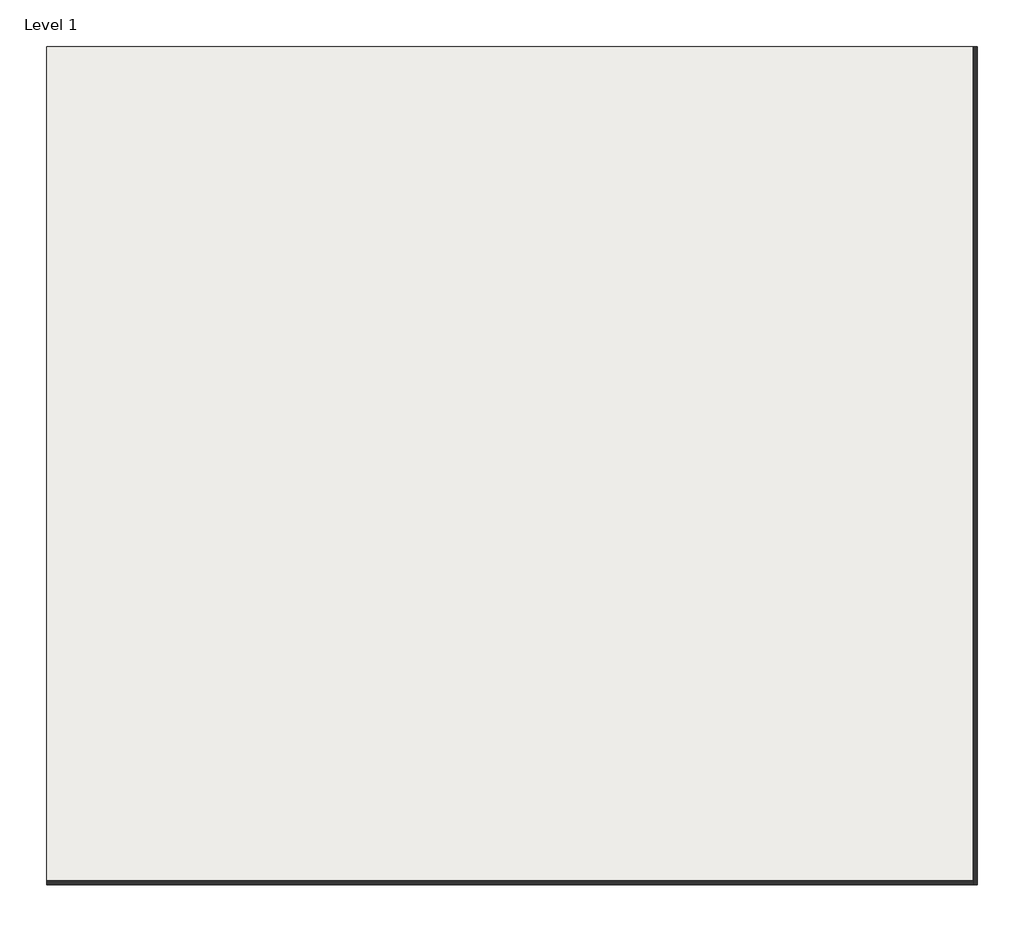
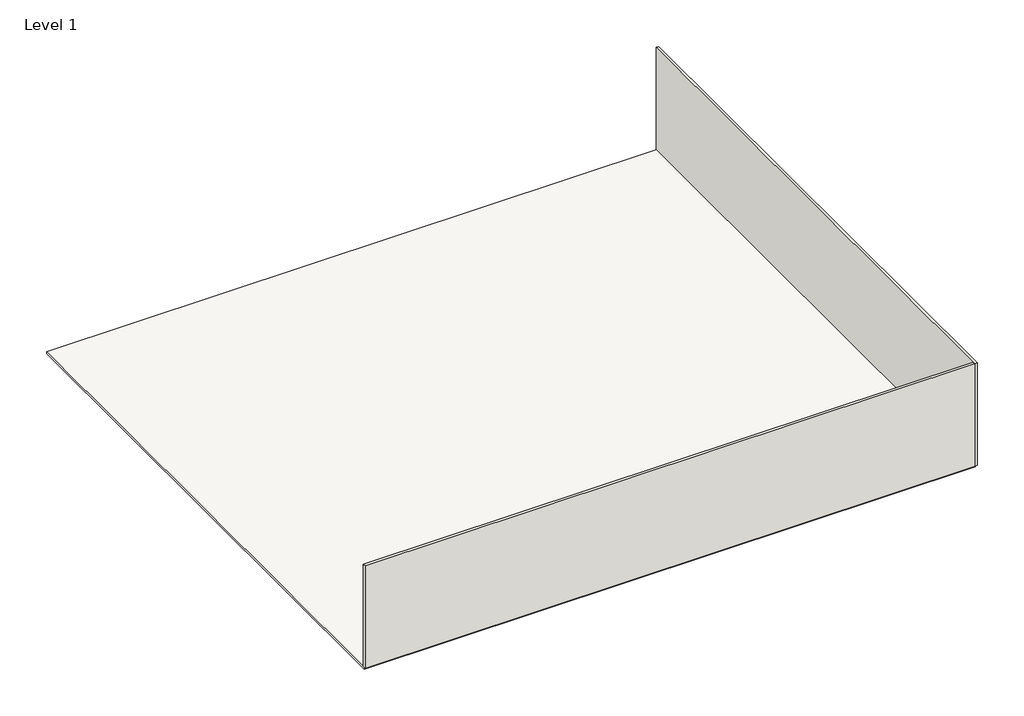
# One storey, incomplete: 2 walls, 1 slab.
"""IFC4 building model written with IfcOpenShell, lengths in millimetres."""

from ifc_helpers import new_model, si_unit, frame, origin, origin_with_axes, place, context, project, spatial, polyline, outline, extrude, faceted_brep, element, save

model = new_model("IFC4")

# Units and contexts
model_context = context("Model", 3, world=origin())
ifc_project = project(units=[si_unit("LENGTHUNIT", "METRE", prefix="MILLI")], contexts=[model_context])

# Site, building, storey
site = spatial("IfcSite", under=ifc_project)
building = spatial("IfcBuilding", under=site)
storey = spatial("IfcBuildingStorey", under=building, Name="Level 1", Elevation=0.0)

# Slab
placement = place(None, origin())
element("IfcSlab", 1, ObjectType="Generic 150mm", at=placement, inside=storey, context=model_context, shape_type="SweptSolid", body=[
    extrude(outline(polyline([(20850.0103482, 20556.3586497), (20850.0103482, -20143.6413503), (-24349.9896518, -20143.6413503), (-24349.9896518, 20556.3586497), (20850.0103482, 20556.3586497)])), frame((0.0, 0.0, -150.0), z_axis=(0.0, 0.0, 1.0), x_axis=(1.0, 0.0, 0.0)), (0.0, 0.0, 1.0), 150.0),
])

# Walls
element("IfcWall", 2, ObjectType="Generic - 200mm", at=placement, inside=storey, context=model_context, shape_type="Brep", body=[
    faceted_brep([(20750.0103482, 20556.3586497, 0.0), (20750.0103482, -20043.6413503, 0.0), (20750.0103482, -20243.6413503, 0.0), (20750.0103482, -20243.6413503, 8000.0), (20750.0103482, -20043.6413503, 8000.0), (20750.0103482, 20556.3586497, 8000.0), (20950.0103482, 20556.3586497, 0.0), (20950.0103482, 20556.3586497, 8000.0), (20950.0103482, -20243.6413503, 8000.0), (20950.0103482, -20243.6413503, 0.0)], [[[0, 1, 2, 3, 4, 5]], [[6, 7, 8, 9]], [[2, 1, 0, 6, 9]], [[5, 4, 3, 8, 7]], [[0, 5, 7, 6]], [[3, 2, 9, 8]]]),
])
element("IfcWall", 3, ObjectType="Generic - 200mm", at=placement, inside=storey, context=model_context, shape_type="SweptSolid", body=[
    extrude(outline(polyline([(-24349.9896518, -20043.6413503), (20750.0103482, -20043.6413503), (20750.0103482, -20243.6413503), (-24349.9896518, -20243.6413503), (-24349.9896518, -20043.6413503)])), origin_with_axes(), (0.0, 0.0, 1.0), 8000.0),
])

save(model, "model.ifc")
